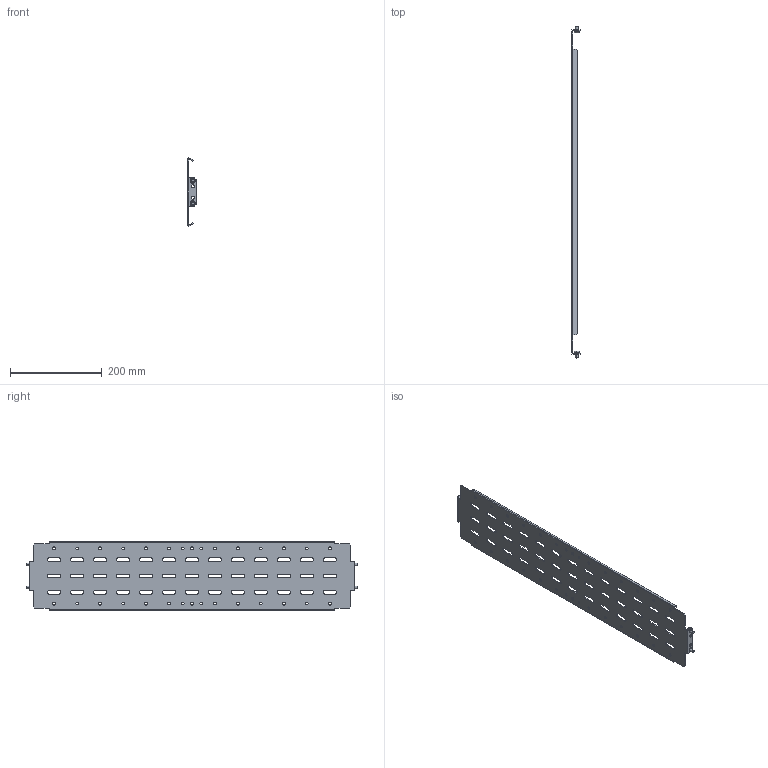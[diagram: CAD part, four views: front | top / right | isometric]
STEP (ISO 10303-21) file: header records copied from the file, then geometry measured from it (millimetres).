
FILE_DESCRIPTION (( 'STEP AP214' ), '1' );
FILE_NAME ('FO-00-SWV-015-080 Ïåðåãîðîäêà ñåêöèîíèðîâàíèÿ âåðòèêàëüíàÿ 150õ800 ìì.STEP', '2025-08-11T10:20:56', ( '' ), ( '' ), 'SwSTEP 2.0', 'SolidWorks 2023', '' );
FILE_SCHEMA (( 'AUTOMOTIVE_DESIGN' ));
Length unit declared in the file: millimetre
Products named in the file (1): FO-00-SWV-015-080 Перегородка секционирования вертикальная 150х800 мм
Bounding box: 17.5 x 722.5 x 148.93 mm (x, y, z)
Volume: 165446.2 mm3; surface area: 226932 mm2
Topology: 1 solids, 1 shells, 368 faces, 1026 edges, 676 vertices
Faces by surface type: plane 174, cylinder 170, torus 16, cone 8
Entity records: 12213 total; most frequent: DIRECTION 2144, CARTESIAN_POINT 2071, ORIENTED_EDGE 2052, EDGE_CURVE 1026, AXIS2_PLACEMENT_3D 749, VERTEX_POINT 676, VECTOR 646, LINE 646
